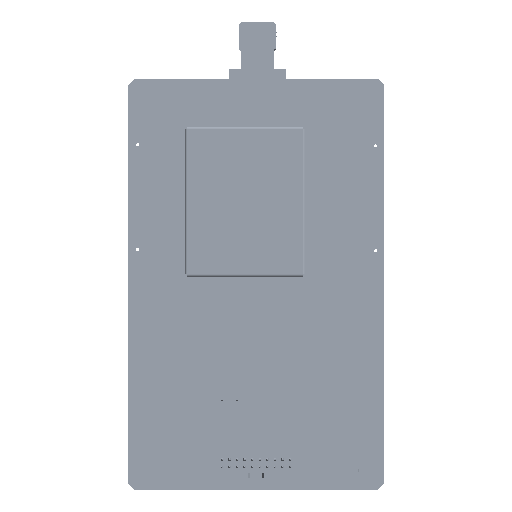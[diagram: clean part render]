
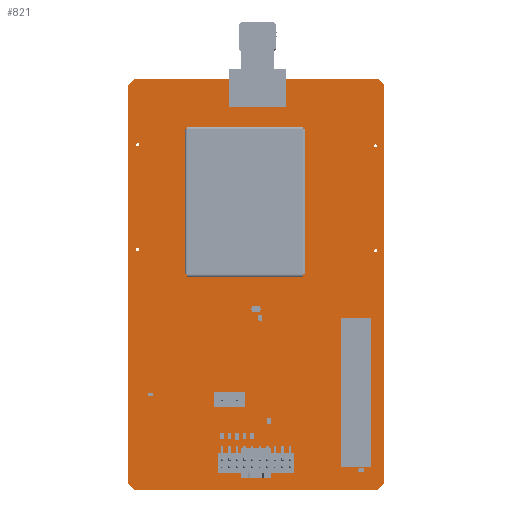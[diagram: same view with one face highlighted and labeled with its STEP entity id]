
A CAD part, top view. The second image highlights one B-rep face of the part: STEP entity #821.
In plain terms, the highlighted planar face has unit normal (0, 0, 1).
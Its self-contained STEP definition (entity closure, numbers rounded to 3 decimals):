
#348 = VERTEX_POINT('',#349);
#349 = CARTESIAN_POINT('',(0.012,1.139,1.784));
#355 = EDGE_CURVE('',#348,#356,#358,.T.);
#356 = VERTEX_POINT('',#357);
#357 = CARTESIAN_POINT('',(0.012,67.965,1.784));
#358 = LINE('',#359,#360);
#359 = CARTESIAN_POINT('',(0.012,1.139,1.784));
#360 = VECTOR('',#361,1.);
#361 = DIRECTION('',(0.,1.,0.));
#386 = EDGE_CURVE('',#356,#387,#389,.T.);
#387 = VERTEX_POINT('',#388);
#388 = CARTESIAN_POINT('',(1.127,69.079,1.784));
#389 = LINE('',#390,#391);
#390 = CARTESIAN_POINT('',(0.012,67.965,1.784));
#391 = VECTOR('',#392,1.);
#392 = DIRECTION('',(0.707,0.707,0.));
#417 = EDGE_CURVE('',#387,#418,#420,.T.);
#418 = VERTEX_POINT('',#419);
#419 = CARTESIAN_POINT('',(41.973,69.079,1.784));
#420 = LINE('',#421,#422);
#421 = CARTESIAN_POINT('',(1.127,69.079,1.784));
#422 = VECTOR('',#423,1.);
#423 = DIRECTION('',(1.,0.,0.));
#448 = EDGE_CURVE('',#418,#449,#451,.T.);
#449 = VERTEX_POINT('',#450);
#450 = CARTESIAN_POINT('',(43.012,68.046,1.784));
#451 = LINE('',#452,#453);
#452 = CARTESIAN_POINT('',(41.973,69.079,1.784));
#453 = VECTOR('',#454,1.);
#454 = DIRECTION('',(0.709,-0.705,0.));
#479 = EDGE_CURVE('',#449,#480,#482,.T.);
#480 = VERTEX_POINT('',#481);
#481 = CARTESIAN_POINT('',(43.013,1.14,1.784));
#482 = LINE('',#483,#484);
#483 = CARTESIAN_POINT('',(43.012,68.046,1.784));
#484 = VECTOR('',#485,1.);
#485 = DIRECTION('',(0.,-1.,0.));
#510 = EDGE_CURVE('',#480,#511,#513,.T.);
#511 = VERTEX_POINT('',#512);
#512 = CARTESIAN_POINT('',(41.873,0.,1.784));
#513 = LINE('',#514,#515);
#514 = CARTESIAN_POINT('',(43.013,1.14,1.784));
#515 = VECTOR('',#516,1.);
#516 = DIRECTION('',(-0.707,-0.707,0.));
#541 = EDGE_CURVE('',#511,#542,#544,.T.);
#542 = VERTEX_POINT('',#543);
#543 = CARTESIAN_POINT('',(1.151,0.,1.784));
#544 = LINE('',#545,#546);
#545 = CARTESIAN_POINT('',(41.873,0.,1.784));
#546 = VECTOR('',#547,1.);
#547 = DIRECTION('',(-1.,0.,0.));
#572 = EDGE_CURVE('',#542,#348,#573,.T.);
#573 = LINE('',#574,#575);
#574 = CARTESIAN_POINT('',(1.151,0.,1.784));
#575 = VECTOR('',#576,1.);
#576 = DIRECTION('',(-0.707,0.707,0.));
#596 = VERTEX_POINT('',#597);
#597 = CARTESIAN_POINT('',(16.321,15.158,1.784));
#603 = EDGE_CURVE('',#596,#596,#604,.T.);
#604 = CIRCLE('',#605,0.5);
#605 = AXIS2_PLACEMENT_3D('',#606,#607,#608);
#606 = CARTESIAN_POINT('',(15.821,15.158,1.784));
#607 = DIRECTION('',(0.,0.,1.));
#608 = DIRECTION('',(1.,0.,-0.));
#629 = VERTEX_POINT('',#630);
#630 = CARTESIAN_POINT('',(1.854,40.4,1.784));
#636 = EDGE_CURVE('',#629,#629,#637,.T.);
#637 = CIRCLE('',#638,0.25);
#638 = AXIS2_PLACEMENT_3D('',#639,#640,#641);
#639 = CARTESIAN_POINT('',(1.604,40.4,1.784));
#640 = DIRECTION('',(0.,0.,1.));
#641 = DIRECTION('',(1.,0.,-0.));
#662 = VERTEX_POINT('',#663);
#663 = CARTESIAN_POINT('',(1.891,58.001,1.784));
#669 = EDGE_CURVE('',#662,#662,#670,.T.);
#670 = CIRCLE('',#671,0.25);
#671 = AXIS2_PLACEMENT_3D('',#672,#673,#674);
#672 = CARTESIAN_POINT('',(1.641,58.001,1.784));
#673 = DIRECTION('',(0.,0.,1.));
#674 = DIRECTION('',(1.,0.,-0.));
#695 = VERTEX_POINT('',#696);
#696 = CARTESIAN_POINT('',(18.861,15.158,1.784));
#702 = EDGE_CURVE('',#695,#695,#703,.T.);
#703 = CIRCLE('',#704,0.5);
#704 = AXIS2_PLACEMENT_3D('',#705,#706,#707);
#705 = CARTESIAN_POINT('',(18.361,15.158,1.784));
#706 = DIRECTION('',(0.,0.,1.));
#707 = DIRECTION('',(1.,0.,-0.));
#728 = VERTEX_POINT('',#729);
#729 = CARTESIAN_POINT('',(41.85,57.8,1.784));
#735 = EDGE_CURVE('',#728,#728,#736,.T.);
#736 = CIRCLE('',#737,0.25);
#737 = AXIS2_PLACEMENT_3D('',#738,#739,#740);
#738 = CARTESIAN_POINT('',(41.6,57.8,1.784));
#739 = DIRECTION('',(0.,0.,1.));
#740 = DIRECTION('',(1.,0.,-0.));
#761 = VERTEX_POINT('',#762);
#762 = CARTESIAN_POINT('',(41.85,40.224,1.784));
#768 = EDGE_CURVE('',#761,#761,#769,.T.);
#769 = CIRCLE('',#770,0.25);
#770 = AXIS2_PLACEMENT_3D('',#771,#772,#773);
#771 = CARTESIAN_POINT('',(41.6,40.224,1.784));
#772 = DIRECTION('',(0.,0.,1.));
#773 = DIRECTION('',(1.,0.,-0.));
#821 = ADVANCED_FACE('',(#822,#832,#835,#838,#841,#844,#847),#850,.F.);
#822 = FACE_BOUND('',#823,.F.);
#823 = EDGE_LOOP('',(#824,#825,#826,#827,#828,#829,#830,#831));
#824 = ORIENTED_EDGE('',*,*,#355,.T.);
#825 = ORIENTED_EDGE('',*,*,#386,.T.);
#826 = ORIENTED_EDGE('',*,*,#417,.T.);
#827 = ORIENTED_EDGE('',*,*,#448,.T.);
#828 = ORIENTED_EDGE('',*,*,#479,.T.);
#829 = ORIENTED_EDGE('',*,*,#510,.T.);
#830 = ORIENTED_EDGE('',*,*,#541,.T.);
#831 = ORIENTED_EDGE('',*,*,#572,.T.);
#832 = FACE_BOUND('',#833,.F.);
#833 = EDGE_LOOP('',(#834));
#834 = ORIENTED_EDGE('',*,*,#603,.T.);
#835 = FACE_BOUND('',#836,.F.);
#836 = EDGE_LOOP('',(#837));
#837 = ORIENTED_EDGE('',*,*,#636,.T.);
#838 = FACE_BOUND('',#839,.F.);
#839 = EDGE_LOOP('',(#840));
#840 = ORIENTED_EDGE('',*,*,#669,.T.);
#841 = FACE_BOUND('',#842,.F.);
#842 = EDGE_LOOP('',(#843));
#843 = ORIENTED_EDGE('',*,*,#702,.T.);
#844 = FACE_BOUND('',#845,.F.);
#845 = EDGE_LOOP('',(#846));
#846 = ORIENTED_EDGE('',*,*,#735,.T.);
#847 = FACE_BOUND('',#848,.F.);
#848 = EDGE_LOOP('',(#849));
#849 = ORIENTED_EDGE('',*,*,#768,.T.);
#850 = PLANE('',#851);
#851 = AXIS2_PLACEMENT_3D('',#852,#853,#854);
#852 = CARTESIAN_POINT('',(21.517,34.551,1.784));
#853 = DIRECTION('',(-0.,-0.,-1.));
#854 = DIRECTION('',(-1.,0.,0.));
